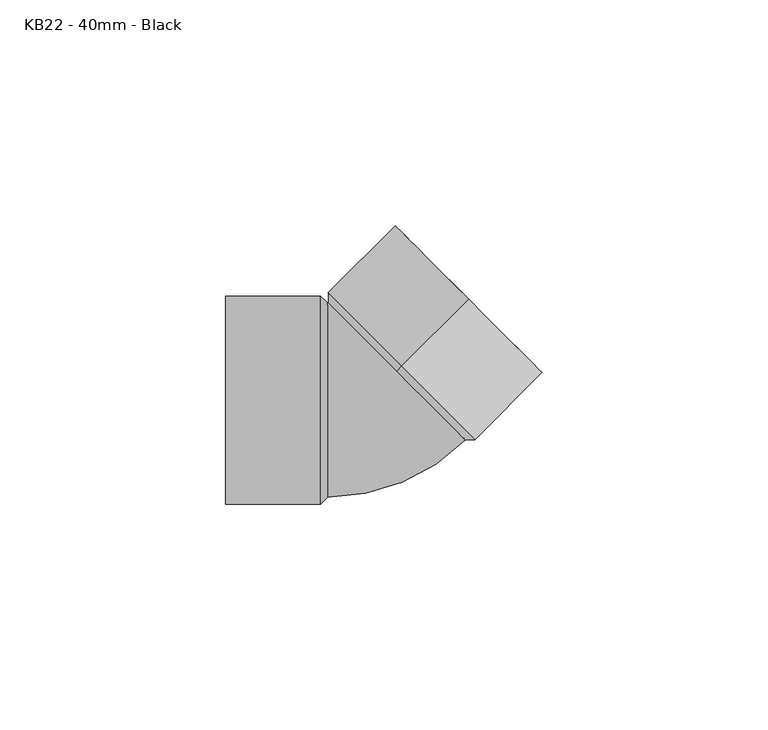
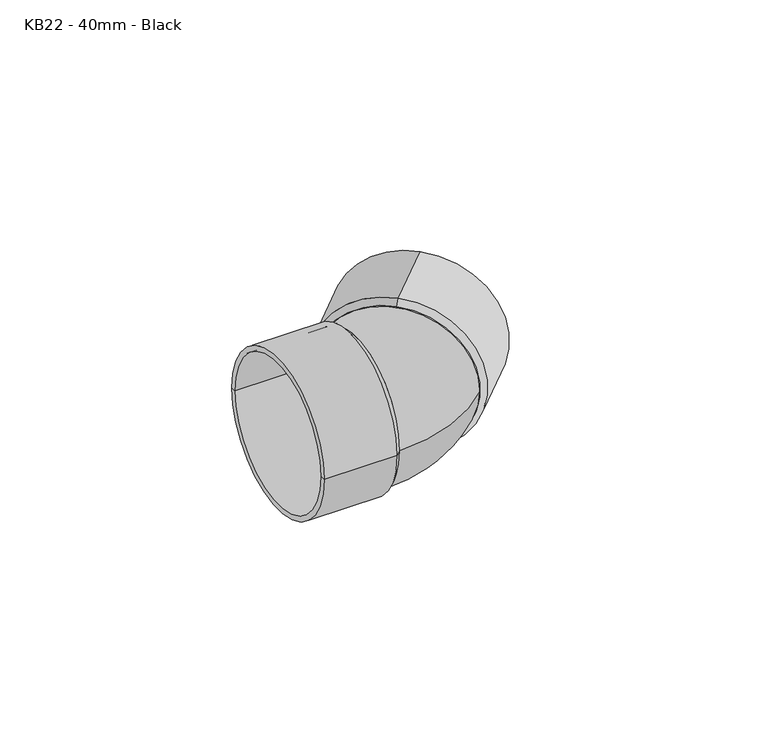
"""IFC4 building model written with IfcOpenShell, lengths in millimetres: pipe fitting geometry, MarleyPlumbingAndDrainage_PipeFitting_SolventBend45 : KB22 - 40mm - Black."""

from ifc_helpers import new_model, si_unit, point, frame, origin, place, context, project, spatial, polyline, circle_curve, ellipse_curve, trimmed, source, transform, mapped, element, save
from ifc_brep_helpers import plane_surface, cylinder_surface, revolved_surface, advanced_brep


def kb22_40mm_black_890d581f(model_context):
    return source(origin(), model_context, "Body", "AdvancedBrep", [
        advanced_brep(
        [(7.5281867, 22.2949747, -21.5), (7.5281867, 22.2949747, 21.5), (7.5281867, 22.2949747, 23.0), (7.5281867, 22.2949747, -23.0), (-7.3210557, 7.4457323, -21.5), (-7.3210557, 7.4457323, 21.5), (-7.3210557, 7.4457323, 0.0), (-8.3817159, 6.3850722, -21.5), (-8.3817159, 6.3850722, 21.5), (-8.3817159, 6.3850722, 0.0), (-7.3210557, 7.4457323, -23.0), (-7.3210557, 7.4457323, 23.0)],
        [
            (0, 1, circle_curve(frame((7.5281867, 22.2949747, 0.0), z_axis=(-0.7071067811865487, -0.7071067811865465, 0.0), x_axis=(0.0, 0.0, 1.0)), 21.5)),
            (1, 2),
            (2, 3, circle_curve(frame((7.5281867, 22.2949747, 0.0), z_axis=(0.7071067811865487, 0.7071067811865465, 0.0), x_axis=(0.0, 0.0, 1.0)), 23.0)),
            (3, 0),
            (1, 0, circle_curve(frame((7.5281867, 22.2949747, 0.0), z_axis=(-0.7071067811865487, -0.7071067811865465, 0.0), x_axis=(0.0, 0.0, 1.0)), 21.5)),
            (3, 2, circle_curve(frame((7.5281867, 22.2949747, 0.0), z_axis=(0.7071067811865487, 0.7071067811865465, 0.0), x_axis=(0.0, 0.0, 1.0)), 23.0)),
            (4, 5, circle_curve(frame((-7.3210557, 7.4457323, 0.0), z_axis=(-0.7071067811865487, -0.7071067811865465, 0.0), x_axis=(0.0, 0.0, 1.0)), 21.5)),
            (5, 1),
            (0, 4),
            (5, 4, circle_curve(frame((-7.3210557, 7.4457323, 0.0), z_axis=(-0.7071067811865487, -0.7071067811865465, 0.0), x_axis=(0.0, 0.0, 1.0)), 21.5)),
            (6, 5),
            (4, 6),
            (7, 8, circle_curve(frame((-8.3817159, 6.3850722, 0.0), z_axis=(-0.7071067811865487, -0.7071067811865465, 0.0), x_axis=(0.0, 0.0, 1.0)), 21.5)),
            (8, 9),
            (9, 7),
            (8, 7, circle_curve(frame((-8.3817159, 6.3850722, 0.0), z_axis=(-0.7071067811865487, -0.7071067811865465, 0.0), x_axis=(0.0, 0.0, 1.0)), 21.5)),
            (10, 11, circle_curve(frame((-7.3210557, 7.4457323, 0.0), z_axis=(-0.7071067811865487, -0.7071067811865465, 0.0), x_axis=(0.0, 0.0, 1.0)), 23.0)),
            (11, 8),
            (7, 10),
            (11, 10, circle_curve(frame((-7.3210557, 7.4457323, 0.0), z_axis=(-0.7071067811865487, -0.7071067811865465, 0.0), x_axis=(0.0, 0.0, 1.0)), 23.0)),
            (2, 11),
            (10, 3),
        ],
        [
            plane_surface(frame((7.5281867, 22.2949747, 0.0), z_axis=(0.7071067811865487, 0.7071067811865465, 0.0), x_axis=(0.0, 0.0, 1.0))),
            revolved_surface(polyline([(7.528186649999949, 22.294974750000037, 21.5), (-7.3210557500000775, 7.445732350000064, 21.5)]), (34.3862518, 49.1530399, 0.0), (0.7071067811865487, 0.7071067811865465, 0.0)),
            plane_surface(frame((-7.3210557, 7.4457323, 0.0), z_axis=(0.7071067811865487, 0.7071067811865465, 0.0), x_axis=(0.0, 0.0, 1.0))),
            plane_surface(frame((-8.3817159, 6.3850722, 0.0), z_axis=(-0.7071067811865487, -0.7071067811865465, 0.0), x_axis=(0.0, 0.0, 1.0))),
            revolved_surface(polyline([(-8.3817159, 6.3850722, 21.5), (-7.3210557, 7.4457323, 23.0)]), (34.3862518, 49.1530399, 0.0), (0.7071067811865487, 0.7071067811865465, 0.0)),
            cylinder_surface(frame((34.3862518, 49.1530399, 0.0), z_axis=(0.7071067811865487, 0.7071067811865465, 0.0), x_axis=(0.0, 0.0, 1.0)), 23.0),
        ],
        [
            (0, [[1, 2, 3, 4]]),
            (0, [[5, -4, 6, -2]]),
            (1, [[7, 8, -1, 9]]),
            (1, [[10, -9, -5, -8]]),
            (2, [[11, -7, 12]]),
            (2, [[-12, -10, -11]]),
            (3, [[13, 14, 15]]),
            (3, [[16, -15, -14]]),
            (4, [[17, 18, -13, 19]]),
            (4, [[20, -19, -16, -18]]),
            (5, [[-3, 21, -17, 22]]),
            (5, [[-6, -22, -20, -21]]),
        ],
    ),
        advanced_brep(
        [(-46.2966437, 21.5, 0.0), (-46.2966437, -21.5, 0.0), (-46.2966437, -23.0, 0.0), (-46.2966437, 23.0, 0.0), (-25.2966437, 21.5, 0.0), (-25.2966437, -21.5, 0.0), (-25.2966437, 0.0, 0.0), (-23.7966437, 21.5, 0.0), (-23.7966437, -21.5, 0.0), (-23.7966437, 0.0, 0.0), (-25.2966437, 23.0, 0.0), (-25.2966437, -23.0, 0.0)],
        [
            (0, 1, circle_curve(frame((-46.2966437, 0.0, 0.0), z_axis=(1.0, 0.0, 0.0), x_axis=(0.0, -1.0, 0.0)), 21.5)),
            (1, 2),
            (2, 3, circle_curve(frame((-46.2966437, 0.0, 0.0), z_axis=(-1.0, 0.0, 0.0), x_axis=(0.0, -1.0, 0.0)), 23.0)),
            (3, 0),
            (1, 0, circle_curve(frame((-46.2966437, 0.0, 0.0), z_axis=(1.0, 0.0, 0.0), x_axis=(0.0, -1.0, 0.0)), 21.5)),
            (3, 2, circle_curve(frame((-46.2966437, 0.0, 0.0), z_axis=(-1.0, 0.0, 0.0), x_axis=(0.0, -1.0, 0.0)), 23.0)),
            (4, 5, circle_curve(frame((-25.2966437, 0.0, 0.0), z_axis=(1.0, 0.0, 0.0), x_axis=(0.0, -1.0, 0.0)), 21.5)),
            (5, 1),
            (0, 4),
            (5, 4, circle_curve(frame((-25.2966437, 0.0, 0.0), z_axis=(1.0, 0.0, 0.0), x_axis=(0.0, -1.0, 0.0)), 21.5)),
            (6, 5),
            (4, 6),
            (7, 8, circle_curve(frame((-23.7966437, 0.0, 0.0), z_axis=(1.0, 0.0, 0.0), x_axis=(0.0, -1.0, 0.0)), 21.5)),
            (8, 9),
            (9, 7),
            (8, 7, circle_curve(frame((-23.7966437, 0.0, 0.0), z_axis=(1.0, 0.0, 0.0), x_axis=(0.0, -1.0, 0.0)), 21.5)),
            (10, 11, circle_curve(frame((-25.2966437, 0.0, 0.0), z_axis=(1.0, 0.0, 0.0), x_axis=(0.0, -1.0, 0.0)), 23.0)),
            (11, 8),
            (7, 10),
            (11, 10, circle_curve(frame((-25.2966437, 0.0, 0.0), z_axis=(1.0, 0.0, 0.0), x_axis=(0.0, -1.0, 0.0)), 23.0)),
            (2, 11),
            (10, 3),
        ],
        [
            plane_surface(frame((-46.2966437, 0.0, 0.0), z_axis=(-1.0, 0.0, 0.0), x_axis=(0.0, -1.0, 0.0))),
            revolved_surface(polyline([(-46.2966437, -21.5, 0.0), (-25.296643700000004, -21.5, 0.0)]), (-84.2796837, 0.0, 0.0), (-1.0, 0.0, 0.0)),
            plane_surface(frame((-25.2966437, 0.0, 0.0), z_axis=(-1.0, 0.0, 0.0), x_axis=(0.0, -1.0, 0.0))),
            plane_surface(frame((-23.7966437, 0.0, 0.0), z_axis=(1.0, 0.0, 0.0), x_axis=(0.0, -1.0, 0.0))),
            revolved_surface(polyline([(-23.7966437, -21.5, 0.0), (-25.2966437, -23.0, 0.0)]), (-84.2796837, 0.0, 0.0), (-1.0, 0.0, 0.0)),
            cylinder_surface(frame((-84.2796837, 0.0, 0.0), z_axis=(-1.0, 0.0, 0.0), x_axis=(0.0, -1.0, 0.0)), 23.0),
        ],
        [
            (0, [[1, 2, 3, 4]]),
            (0, [[5, -4, 6, -2]]),
            (1, [[7, 8, -1, 9]]),
            (1, [[10, -9, -5, -8]]),
            (2, [[11, -7, 12]]),
            (2, [[-12, -10, -11]]),
            (3, [[13, 14, 15]]),
            (3, [[16, -15, -14]]),
            (4, [[17, 18, -13, 19]]),
            (4, [[20, -19, -16, -18]]),
            (5, [[-3, 21, -17, 22]]),
            (5, [[-6, -22, -20, -21]]),
        ],
    ),
        advanced_brep(
        [(-23.7966437, -21.5, 0.0), (-23.7966437, 21.5, 0.0), (6.8210799, -8.8177236, 0.0), (-23.5845117, 21.587868, 0.0)],
        [
            (0, 1, circle_curve(frame((-23.7966437, 0.0, 0.0), z_axis=(-1.0, 0.0, 0.0), x_axis=(0.0, 1.0, 0.0)), 21.5)),
            (1, 0, circle_curve(frame((-23.7966437, 0.0, 0.0), z_axis=(-1.0, 0.0, 0.0), x_axis=(0.0, 1.0, 0.0)), 21.5)),
            (2, 3, circle_curve(frame((-8.3817159, 6.3850722, 0.0), z_axis=(0.707106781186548, 0.707106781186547, 0.0), x_axis=(-0.707106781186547, 0.707106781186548, 0.0)), 21.5)),
            (3, 2, circle_curve(frame((-8.3817159, 6.3850722, 0.0), z_axis=(0.707106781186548, 0.707106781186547, 0.0), x_axis=(-0.707106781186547, 0.707106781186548, 0.0)), 21.5)),
            (3, 1, circle_curve(frame((-23.7966437, 21.8, 0.0), z_axis=(0.0, 0.0, -1.0), x_axis=(0.0, -1.0, 0.0)), 0.3)),
            (0, 2, circle_curve(frame((-23.7966437, 21.8, 0.0), z_axis=(0.0, 0.0, 1.0), x_axis=(0.0, -1.0, 0.0)), 43.3)),
        ],
        [
            plane_surface(frame((-23.7966437, 0.0, 0.0), z_axis=(-1.0, 0.0, 0.0), x_axis=(0.0, 0.0, 1.0))),
            plane_surface(frame((-8.3817159, 6.3850722, 0.0), z_axis=(0.7071067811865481, 0.707106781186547, 0.0), x_axis=(0.0, 0.0, 1.0))),
            revolved_surface(trimmed(ellipse_curve(frame((-23.7966437, 0.0, 0.0), z_axis=(-1.0, 0.0, 0.0), x_axis=(0.0, 1.0, 0.0)), 21.5, 21.5), [point((-23.7966437, -21.5, 0.0))], [point((-23.7966437, 21.5, 0.0))], True, "CARTESIAN"), (-23.7966437, 21.8, 0.0), (0.0, 0.0, 1.0)),
            revolved_surface(trimmed(ellipse_curve(frame((-23.7966437, 0.0, 0.0), z_axis=(-1.0, 0.0, 0.0), x_axis=(0.0, 1.0, 0.0)), 21.5, 21.5), [point((-23.7966437, 21.5, 0.0))], [point((-23.7966437, -21.5, 0.0))], True, "CARTESIAN"), (-23.7966437, 21.8, 0.0), (0.0, 0.0, 1.0)),
        ],
        [
            (0, [[1, 2]]),
            (1, [[3, 4]]),
            (2, [[5, -1, 6, -4]]),
            (3, [[-6, -2, -5, -3]]),
        ],
    ),
    ])


if __name__ == "__main__":
    model = new_model("IFC4")
    model_context = context("Model", 3, world=origin())
    ifc_project = project(units=[si_unit("LENGTHUNIT", "METRE", prefix="MILLI")], contexts=[model_context])
    site = spatial("IfcSite", under=ifc_project)
    building = spatial("IfcBuilding", under=site)
    placement = place(None, origin())
    kb22_40mm_black_shape = kb22_40mm_black_890d581f(model_context)
    element("IfcPipeFitting", 1, ObjectType="MarleyPlumbingAndDrainage_PipeFitting_SolventBend45 : KB22 - 40mm - Black", at=placement, inside=building, context=model_context, shape_type="MappedRepresentation", body=[
        mapped(kb22_40mm_black_shape, transform((0.0, 0.0, 0.0), x_axis=(1.0, 0.0, 0.0), y_axis=(0.0, 1.0, 0.0), z_axis=(0.0, 0.0, 1.0))),
    ])
    save(model, "model.ifc")
